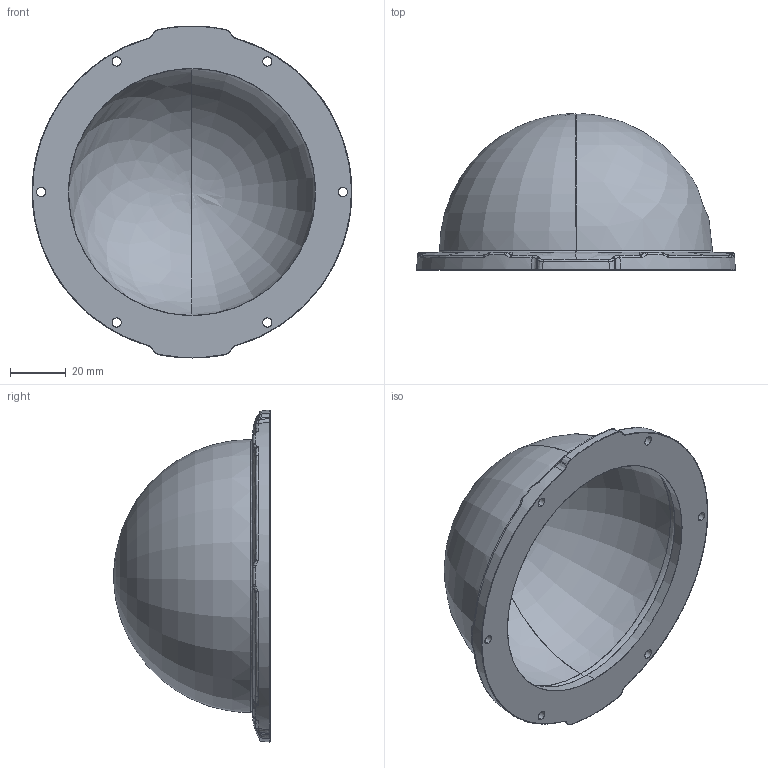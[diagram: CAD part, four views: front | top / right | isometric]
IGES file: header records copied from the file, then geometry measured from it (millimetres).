
Start section: SolidWorks IGES file using analytic representation for surfaces
Global section: file name: C:\Users\Jonathan\Dropbox\BR-Engineering\Models\WTE-4-X2A -PUBLIC\WTE4-P-DOME-R2.IGS; native system: SolidWorks 2014; preprocessor: SolidWorks 2014; author: Jonathan; date: 170321.093636; units: inch
Bounding box: 114.45 x 56.04 x 118.87 mm (x, y, z)
Surface area: 43873.4 mm2 (no closed solid volume)
Topology: 0 solids, 0 shells, 205 faces, 2087 edges, 2057 vertices
Faces by surface type: bspline 162, revolution 43
